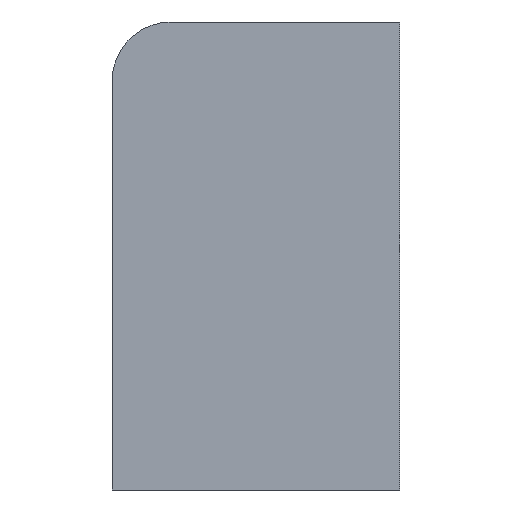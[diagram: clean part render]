
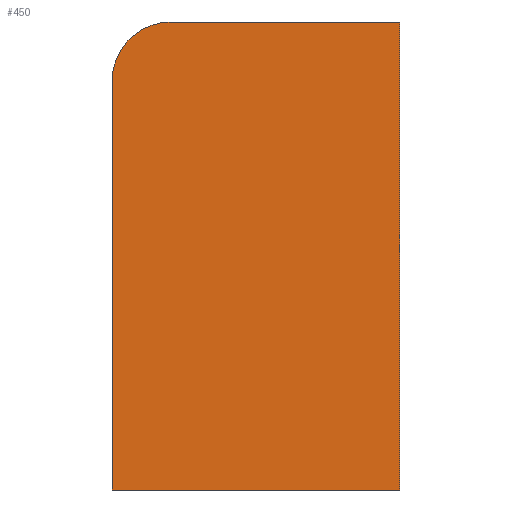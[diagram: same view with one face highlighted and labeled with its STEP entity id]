
A CAD part, left-side view. The second image highlights one B-rep face of the part: STEP entity #450.
In plain terms, the highlighted planar face has unit normal (-1, 0, 0).
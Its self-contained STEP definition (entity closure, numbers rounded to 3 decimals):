
#233=CARTESIAN_POINT('Vertex',(0.,0.,135.)) ;
#236=CARTESIAN_POINT('Line Origine',(0.,0.,67.5)) ;
#240=CARTESIAN_POINT('Vertex',(0.,0.,0.)) ;
#329=CARTESIAN_POINT('Vertex',(0.,83.,0.)) ;
#332=CARTESIAN_POINT('Line Origine',(0.,83.,59.)) ;
#336=CARTESIAN_POINT('Vertex',(0.,83.,118.)) ;
#396=CARTESIAN_POINT('Line Origine',(0.,41.5,0.)) ;
#414=CARTESIAN_POINT('Axis2P3D Location',(0.,66.,118.)) ;
#418=CARTESIAN_POINT('Vertex',(0.,66.,135.)) ;
#433=CARTESIAN_POINT('Axis2P3D Location',(0.,83.,0.)) ;
#438=CARTESIAN_POINT('Line Origine',(0.,33.,135.)) ;
#237=DIRECTION('Vector Direction',(0.,0.,1.)) ;
#333=DIRECTION('Vector Direction',(0.,0.,1.)) ;
#397=DIRECTION('Vector Direction',(0.,-1.,0.)) ;
#415=DIRECTION('Axis2P3D Direction',(-1.,0.,0.)) ;
#434=DIRECTION('Axis2P3D Direction',(-1.,0.,0.)) ;
#435=DIRECTION('Axis2P3D XDirection',(0.,-1.,0.)) ;
#439=DIRECTION('Vector Direction',(0.,1.,0.)) ;
#416=AXIS2_PLACEMENT_3D('Circle Axis2P3D',#414,#415,$) ;
#436=AXIS2_PLACEMENT_3D('Plane Axis2P3D',#433,#434,#435) ;
#444=ORIENTED_EDGE('',*,*,#242,.T.) ;
#445=ORIENTED_EDGE('',*,*,#442,.T.) ;
#446=ORIENTED_EDGE('',*,*,#420,.T.) ;
#447=ORIENTED_EDGE('',*,*,#338,.F.) ;
#448=ORIENTED_EDGE('',*,*,#400,.T.) ;
#238=VECTOR('Line Direction',#237,1.) ;
#334=VECTOR('Line Direction',#333,1.) ;
#398=VECTOR('Line Direction',#397,1.) ;
#440=VECTOR('Line Direction',#439,1.) ;
#450=ADVANCED_FACE('PartBody',(#449),#437,.T.) ;
#417=CIRCLE('generated circle',#416,17.) ;
#242=EDGE_CURVE('',#241,#234,#239,.T.) ;
#338=EDGE_CURVE('',#330,#337,#335,.T.) ;
#400=EDGE_CURVE('',#330,#241,#399,.T.) ;
#420=EDGE_CURVE('',#419,#337,#417,.T.) ;
#442=EDGE_CURVE('',#234,#419,#441,.T.) ;
#443=EDGE_LOOP('',(#444,#445,#446,#447,#448)) ;
#449=FACE_OUTER_BOUND('',#443,.T.) ;
#239=LINE('Line',#236,#238) ;
#335=LINE('Line',#332,#334) ;
#399=LINE('Line',#396,#398) ;
#441=LINE('Line',#438,#440) ;
#437=PLANE('',#436) ;
#234=VERTEX_POINT('',#233) ;
#241=VERTEX_POINT('',#240) ;
#330=VERTEX_POINT('',#329) ;
#337=VERTEX_POINT('',#336) ;
#419=VERTEX_POINT('',#418) ;
